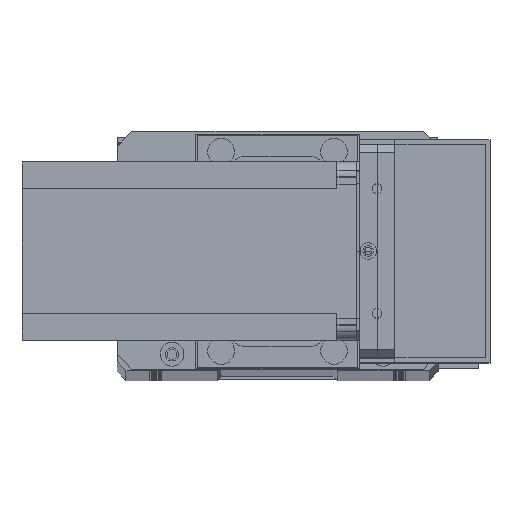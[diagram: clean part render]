
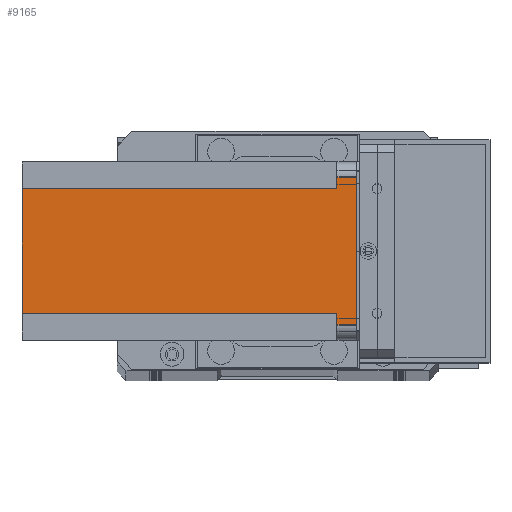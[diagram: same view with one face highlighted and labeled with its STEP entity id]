
A CAD part, top view. The second image highlights one B-rep face of the part: STEP entity #9165.
In plain terms, the highlighted planar face has unit normal (0, 0, 1) as drawn and (1, 0, 0) by its records, which use the part's own axes.
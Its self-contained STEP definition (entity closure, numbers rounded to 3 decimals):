
#279 = CARTESIAN_POINT ( 'NONE',  ( 60., 9., -112.5 ) ) ;
#1937 = CARTESIAN_POINT ( 'NONE',  ( 60., 9., -6.5 ) ) ;
#2003 = CARTESIAN_POINT ( 'NONE',  ( 60., 0., 0. ) ) ;
#2576 = DIRECTION ( 'NONE',  ( 0., 0., -1. ) ) ;
#2599 = VECTOR ( 'NONE', #32115, 1000. ) ;
#2738 = CARTESIAN_POINT ( 'NONE',  ( 60., 9., -112.5 ) ) ;
#2860 = CARTESIAN_POINT ( 'NONE',  ( 60., 0., -112.5 ) ) ;
#3289 = PLANE ( 'NONE',  #26357 ) ;
#3317 = CARTESIAN_POINT ( 'NONE',  ( 60., 5., -6.5 ) ) ;
#3639 = VERTEX_POINT ( 'NONE', #5614 ) ;
#4006 = EDGE_CURVE ( 'NONE', #31051, #21206, #10491, .T. ) ;
#5259 = DIRECTION ( 'NONE',  ( 0., 0., 1. ) ) ;
#5614 = CARTESIAN_POINT ( 'NONE',  ( 60., 51., -6.5 ) ) ;
#5730 = VECTOR ( 'NONE', #30210, 1000. ) ;
#6100 = LINE ( 'NONE', #20029, #11999 ) ;
#6639 = EDGE_CURVE ( 'NONE', #18085, #30298, #27942, .T. ) ;
#6785 = ORIENTED_EDGE ( 'NONE', *, *, #16034, .F. ) ;
#7166 = ORIENTED_EDGE ( 'NONE', *, *, #6639, .F. ) ;
#8001 = ORIENTED_EDGE ( 'NONE', *, *, #30477, .T. ) ;
#8860 = EDGE_LOOP ( 'NONE', ( #20306, #9525, #23734, #8001, #6785, #7166, #10517, #29645 ) ) ;
#9165 = ADVANCED_FACE ( 'NONE', ( #9392 ), #3289, .T. ) ;
#9247 = LINE ( 'NONE', #2003, #2599 ) ;
#9392 = FACE_OUTER_BOUND ( 'NONE', #8860, .T. ) ;
#9525 = ORIENTED_EDGE ( 'NONE', *, *, #4006, .T. ) ;
#10491 = LINE ( 'NONE', #27157, #30486 ) ;
#10517 = ORIENTED_EDGE ( 'NONE', *, *, #24763, .T. ) ;
#11999 = VECTOR ( 'NONE', #12523, 1000. ) ;
#12005 = EDGE_CURVE ( 'NONE', #3639, #14693, #21389, .T. ) ;
#12178 = DIRECTION ( 'NONE',  ( 0., 0., 1. ) ) ;
#12523 = DIRECTION ( 'NONE',  ( 0., -1., 0. ) ) ;
#12703 = CARTESIAN_POINT ( 'NONE',  ( 60., 51., -112.5 ) ) ;
#12965 = EDGE_CURVE ( 'NONE', #31051, #3639, #27577, .T. ) ;
#13365 = DIRECTION ( 'NONE',  ( 0., 1., 0. ) ) ;
#14642 = VECTOR ( 'NONE', #5259, 1000. ) ;
#14693 = VERTEX_POINT ( 'NONE', #17287 ) ;
#15206 = LINE ( 'NONE', #2860, #21048 ) ;
#15543 = VERTEX_POINT ( 'NONE', #3317 ) ;
#15638 = CARTESIAN_POINT ( 'NONE',  ( 60., 5., 0. ) ) ;
#15894 = EDGE_CURVE ( 'NONE', #19248, #21206, #9247, .T. ) ;
#16034 = EDGE_CURVE ( 'NONE', #30298, #15543, #6100, .T. ) ;
#17287 = CARTESIAN_POINT ( 'NONE',  ( 60., 51., -112.5 ) ) ;
#17401 = CARTESIAN_POINT ( 'NONE',  ( 60., 55., 0. ) ) ;
#17557 = CARTESIAN_POINT ( 'NONE',  ( 60., 5., -112.5 ) ) ;
#17829 = DIRECTION ( 'NONE',  ( 0., 1., 0. ) ) ;
#18085 = VERTEX_POINT ( 'NONE', #279 ) ;
#18261 = CARTESIAN_POINT ( 'NONE',  ( 60., 0., -112.5 ) ) ;
#19248 = VERTEX_POINT ( 'NONE', #15638 ) ;
#20029 = CARTESIAN_POINT ( 'NONE',  ( 60., 0., -6.5 ) ) ;
#20306 = ORIENTED_EDGE ( 'NONE', *, *, #12965, .F. ) ;
#20908 = VECTOR ( 'NONE', #21056, 1000. ) ;
#20942 = CARTESIAN_POINT ( 'NONE',  ( 60., 60., -6.5 ) ) ;
#21048 = VECTOR ( 'NONE', #17829, 1000. ) ;
#21056 = DIRECTION ( 'NONE',  ( 0., -1., 0. ) ) ;
#21206 = VERTEX_POINT ( 'NONE', #17401 ) ;
#21389 = LINE ( 'NONE', #12703, #5730 ) ;
#23734 = ORIENTED_EDGE ( 'NONE', *, *, #15894, .F. ) ;
#24763 = EDGE_CURVE ( 'NONE', #18085, #14693, #15206, .T. ) ;
#25326 = VECTOR ( 'NONE', #2576, 1000. ) ;
#26108 = LINE ( 'NONE', #17557, #25326 ) ;
#26342 = CARTESIAN_POINT ( 'NONE',  ( 60., 55., -6.5 ) ) ;
#26357 = AXIS2_PLACEMENT_3D ( 'NONE', #18261, #28345, #13365 ) ;
#27157 = CARTESIAN_POINT ( 'NONE',  ( 60., 55., -112.5 ) ) ;
#27577 = LINE ( 'NONE', #20942, #20908 ) ;
#27942 = LINE ( 'NONE', #2738, #14642 ) ;
#28345 = DIRECTION ( 'NONE',  ( 1., 0., 0. ) ) ;
#29645 = ORIENTED_EDGE ( 'NONE', *, *, #12005, .F. ) ;
#30210 = DIRECTION ( 'NONE',  ( 0., 0., -1. ) ) ;
#30298 = VERTEX_POINT ( 'NONE', #1937 ) ;
#30477 = EDGE_CURVE ( 'NONE', #19248, #15543, #26108, .T. ) ;
#30486 = VECTOR ( 'NONE', #12178, 1000. ) ;
#31051 = VERTEX_POINT ( 'NONE', #26342 ) ;
#32115 = DIRECTION ( 'NONE',  ( 0., 1., 0. ) ) ;
